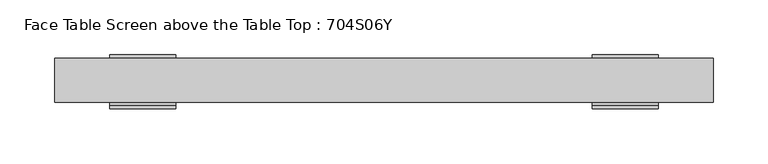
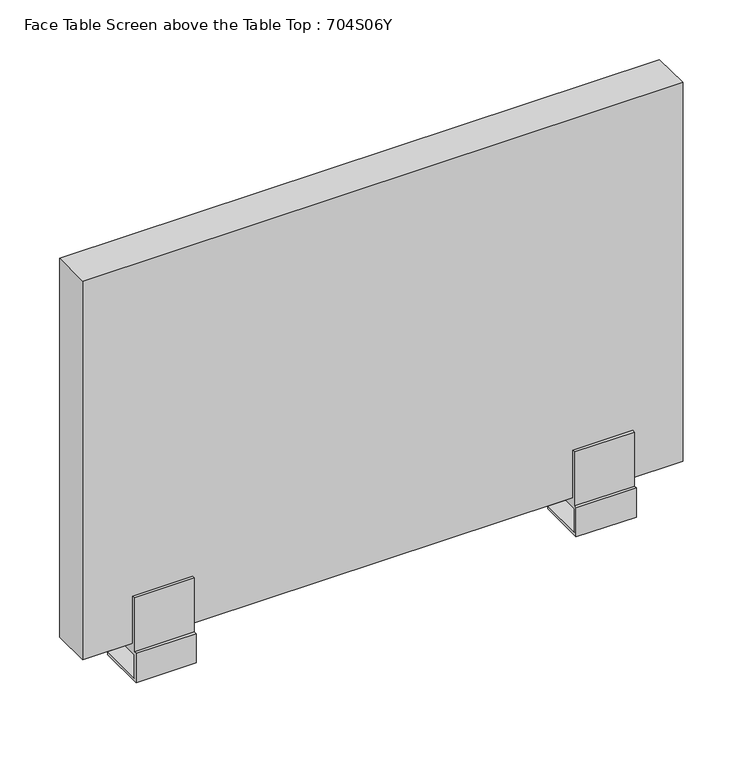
"""IFC4 building model written with IfcOpenShell, lengths in millimetres: furniture geometry, Face Table Screen above the Table Top : 704S06Y."""

from ifc_helpers import new_model, si_unit, frame, origin, place, context, project, spatial, polyline, circle_curve, outline, extrude, source, transform, mapped, element, save
from ifc_brep_helpers import plane_surface, cylinder_surface, advanced_brep


def face_table_screen_above_the_table_top_704s06y_d534fed5(model_context):
    return source(origin(), model_context, "Body", "SolidModel", [
        advanced_brep(
        [(-225.0, 0.0, -39.4406633), (-215.0, 0.0, -39.4406633), (-215.0, 0.0, -28.0), (-225.0, 0.0, -28.0), (-250.0, 23.0, -25.0), (-250.0, -23.0, -25.0), (-190.0, -23.0, -25.0), (-190.0, 23.0, -25.0), (-250.0, -23.0, 0.0), (-250.0, 23.0, -28.0), (-250.0, -26.0, -28.0), (-250.0, -26.0, 3.0), (-250.0, -23.0, 3.0), (-250.0, -23.0, 60.0), (-250.0, -20.0, 60.0), (-250.0, -20.0, 10.0), (-250.0, 20.0, 10.0), (-250.0, 20.0, 60.0), (-250.0, 23.0, 60.0), (-250.0, 23.0, 0.0), (-190.0, -23.0, 0.0), (-190.0, 23.0, 0.0), (-190.0, 23.0, 60.0), (-190.0, 20.0, 60.0), (-190.0, 20.0, 10.0), (-190.0, -20.0, 10.0), (-190.0, -20.0, 60.0), (-190.0, -23.0, 60.0), (-190.0, -23.0, 3.0), (-190.0, -26.0, 3.0), (-190.0, -26.0, -28.0), (-190.0, 23.0, -28.0)],
        [
            (0, 1, circle_curve(frame((-220.0, 0.0, -39.4406633), z_axis=(0.0, 0.0, -1.0), x_axis=(1.0, 0.0, 0.0)), 5.0)),
            (1, 0, circle_curve(frame((-220.0, 0.0, -39.4406633), z_axis=(0.0, 0.0, -1.0), x_axis=(1.0, 0.0, 0.0)), 5.0)),
            (1, 2),
            (2, 3, circle_curve(frame((-220.0, 0.0, -28.0), z_axis=(0.0, 0.0, -1.0), x_axis=(1.0, 0.0, 0.0)), 5.0)),
            (3, 0),
            (3, 2, circle_curve(frame((-220.0, 0.0, -28.0), z_axis=(0.0, 0.0, -1.0), x_axis=(1.0, 0.0, 0.0)), 5.0)),
            (4, 5),
            (5, 6),
            (6, 7),
            (7, 4),
            (8, 5),
            (4, 9),
            (9, 10),
            (10, 11),
            (11, 12),
            (12, 13),
            (13, 14),
            (14, 15),
            (15, 16),
            (16, 17),
            (17, 18),
            (18, 19),
            (19, 8),
            (20, 21),
            (21, 22),
            (22, 23),
            (23, 24),
            (24, 25),
            (25, 26),
            (26, 27),
            (27, 28),
            (28, 29),
            (29, 30),
            (30, 31),
            (31, 7),
            (6, 20),
            (19, 21),
            (20, 8),
            (18, 22),
            (17, 23),
            (16, 24),
            (15, 25),
            (14, 26),
            (13, 27),
            (12, 28),
            (11, 29),
            (10, 30),
            (9, 31),
        ],
        [
            plane_surface(frame((-215.0, 0.0, -39.4406633), z_axis=(0.0, 0.0, -1.0), x_axis=(0.0, -1.0, 0.0))),
            cylinder_surface(frame((-220.0, 0.0, -39.4406633), z_axis=(0.0, 0.0, 1.0), x_axis=(1.0, 0.0, 0.0)), 5.0),
            plane_surface(frame((-215.0, 0.0, -25.0), z_axis=(0.0, 0.0, 1.0), x_axis=(0.0, 1.0, 0.0))),
            plane_surface(frame((-250.0, 23.0, 0.0), z_axis=(-1.0, 0.0, 0.0), x_axis=(0.0, -1.0, 0.0))),
            plane_surface(frame((-190.0, 23.0, 0.0), z_axis=(1.0, 0.0, 0.0), x_axis=(0.0, 1.0, 0.0))),
            plane_surface(frame((-190.0, -23.0, 0.0), z_axis=(0.0, 0.0, -1.0), x_axis=(-1.0, 0.0, 0.0))),
            plane_surface(frame((-190.0, 23.0, 0.0), z_axis=(0.0, 1.0, 0.0), x_axis=(-1.0, 0.0, 0.0))),
            plane_surface(frame((-190.0, 23.0, 60.0), z_axis=(0.0, 0.0, 1.0), x_axis=(-1.0, 0.0, 0.0))),
            plane_surface(frame((-190.0, 20.0, 60.0), z_axis=(0.0, -1.0, 0.0), x_axis=(-1.0, 0.0, 0.0))),
            plane_surface(frame((-190.0, 20.0, 10.0), z_axis=(0.0, 0.0, 1.0), x_axis=(-1.0, 0.0, 0.0))),
            plane_surface(frame((-190.0, -20.0, 10.0), z_axis=(0.0, 1.0, 0.0), x_axis=(-1.0, 0.0, 0.0))),
            plane_surface(frame((-190.0, -20.0, 60.0), z_axis=(0.0, 0.0, 1.0), x_axis=(-1.0, 0.0, 0.0))),
            plane_surface(frame((-190.0, -23.0, 60.0), z_axis=(0.0, -1.0, 0.0), x_axis=(-1.0, 0.0, 0.0))),
            plane_surface(frame((-190.0, -23.0, 3.0), z_axis=(0.0, 0.0, 1.0), x_axis=(-1.0, 0.0, 0.0))),
            plane_surface(frame((-190.0, -26.0, 3.0), z_axis=(0.0, -1.0, 0.0), x_axis=(-1.0, 0.0, 0.0))),
            plane_surface(frame((-190.0, -26.0, -28.0), z_axis=(0.0, 0.0, -1.0), x_axis=(-1.0, 0.0, 0.0))),
            plane_surface(frame((-190.0, 23.0, -28.0), z_axis=(0.0, 1.0, 0.0), x_axis=(-1.0, 0.0, 0.0))),
            plane_surface(frame((-190.0, -23.0, -25.0), z_axis=(0.0, 1.0, 0.0), x_axis=(-1.0, 0.0, 0.0))),
        ],
        [
            (0, [[1, 2]]),
            (1, [[-2, 3, 4, 5]]),
            (1, [[-1, -5, 6, -3]]),
            (2, [[7, 8, 9, 10]]),
            (3, [[11, -7, 12, 13, 14, 15, 16, 17, 18, 19, 20, 21, 22, 23]]),
            (4, [[24, 25, 26, 27, 28, 29, 30, 31, 32, 33, 34, 35, -9, 36]]),
            (5, [[-23, 37, -24, 38]]),
            (6, [[-22, 39, -25, -37]]),
            (7, [[-21, 40, -26, -39]]),
            (8, [[-20, 41, -27, -40]]),
            (9, [[-19, 42, -28, -41]]),
            (10, [[-18, 43, -29, -42]]),
            (11, [[-17, 44, -30, -43]]),
            (12, [[-16, 45, -31, -44]]),
            (13, [[-15, 46, -32, -45]]),
            (14, [[-14, 47, -33, -46]]),
            (15, [[-13, 48, -34, -47], [-4, -6]]),
            (16, [[-12, -10, -35, -48]]),
            (17, [[-11, -38, -36, -8]]),
        ],
    ),
        advanced_brep(
        [(215.0, 0.0, -39.4406633), (225.0, 0.0, -39.4406633), (225.0, 0.0, -28.0), (215.0, 0.0, -28.0), (190.0, 23.0, -25.0), (190.0, -23.0, -25.0), (250.0, -23.0, -25.0), (250.0, 23.0, -25.0), (190.0, -23.0, 0.0), (190.0, 23.0, -28.0), (190.0, -26.0, -28.0), (190.0, -26.0, 3.0), (190.0, -23.0, 3.0), (190.0, -23.0, 60.0), (190.0, -20.0, 60.0), (190.0, -20.0, 10.0), (190.0, 20.0, 10.0), (190.0, 20.0, 60.0), (190.0, 23.0, 60.0), (190.0, 23.0, 0.0), (250.0, -23.0, 0.0), (250.0, 23.0, 0.0), (250.0, 23.0, 60.0), (250.0, 20.0, 60.0), (250.0, 20.0, 10.0), (250.0, -20.0, 10.0), (250.0, -20.0, 60.0), (250.0, -23.0, 60.0), (250.0, -23.0, 3.0), (250.0, -26.0, 3.0), (250.0, -26.0, -28.0), (250.0, 23.0, -28.0)],
        [
            (0, 1, circle_curve(frame((220.0, 0.0, -39.4406633), z_axis=(0.0, 0.0, -1.0), x_axis=(1.0, 0.0, 0.0)), 5.0)),
            (1, 0, circle_curve(frame((220.0, 0.0, -39.4406633), z_axis=(0.0, 0.0, -1.0), x_axis=(1.0, 0.0, 0.0)), 5.0)),
            (1, 2),
            (2, 3, circle_curve(frame((220.0, 0.0, -28.0), z_axis=(0.0, 0.0, -1.0), x_axis=(1.0, 0.0, 0.0)), 5.0)),
            (3, 0),
            (3, 2, circle_curve(frame((220.0, 0.0, -28.0), z_axis=(0.0, 0.0, -1.0), x_axis=(1.0, 0.0, 0.0)), 5.0)),
            (4, 5),
            (5, 6),
            (6, 7),
            (7, 4),
            (8, 5),
            (4, 9),
            (9, 10),
            (10, 11),
            (11, 12),
            (12, 13),
            (13, 14),
            (14, 15),
            (15, 16),
            (16, 17),
            (17, 18),
            (18, 19),
            (19, 8),
            (20, 21),
            (21, 22),
            (22, 23),
            (23, 24),
            (24, 25),
            (25, 26),
            (26, 27),
            (27, 28),
            (28, 29),
            (29, 30),
            (30, 31),
            (31, 7),
            (6, 20),
            (19, 21),
            (20, 8),
            (18, 22),
            (17, 23),
            (16, 24),
            (15, 25),
            (14, 26),
            (13, 27),
            (12, 28),
            (11, 29),
            (10, 30),
            (9, 31),
        ],
        [
            plane_surface(frame((225.0, 0.0, -39.4406633), z_axis=(0.0, 0.0, -1.0), x_axis=(0.0, -1.0, 0.0))),
            cylinder_surface(frame((220.0, 0.0, -39.4406633), z_axis=(0.0, 0.0, 1.0), x_axis=(1.0, 0.0, 0.0)), 5.0),
            plane_surface(frame((225.0, 0.0, -25.0), z_axis=(0.0, 0.0, 1.0), x_axis=(0.0, 1.0, 0.0))),
            plane_surface(frame((190.0, 23.0, 0.0), z_axis=(-1.0, 0.0, 0.0), x_axis=(0.0, -1.0, 0.0))),
            plane_surface(frame((250.0, 23.0, 0.0), z_axis=(1.0, 0.0, 0.0), x_axis=(0.0, 1.0, 0.0))),
            plane_surface(frame((250.0, -23.0, 0.0), z_axis=(0.0, 0.0, -1.0), x_axis=(-1.0, 0.0, 0.0))),
            plane_surface(frame((250.0, 23.0, 0.0), z_axis=(0.0, 1.0, 0.0), x_axis=(-1.0, 0.0, 0.0))),
            plane_surface(frame((250.0, 23.0, 60.0), z_axis=(0.0, 0.0, 1.0), x_axis=(-1.0, 0.0, 0.0))),
            plane_surface(frame((250.0, 20.0, 60.0), z_axis=(0.0, -1.0, 0.0), x_axis=(-1.0, 0.0, 0.0))),
            plane_surface(frame((250.0, 20.0, 10.0), z_axis=(0.0, 0.0, 1.0), x_axis=(-1.0, 0.0, 0.0))),
            plane_surface(frame((250.0, -20.0, 10.0), z_axis=(0.0, 1.0, 0.0), x_axis=(-1.0, 0.0, 0.0))),
            plane_surface(frame((250.0, -20.0, 60.0), z_axis=(0.0, 0.0, 1.0), x_axis=(-1.0, 0.0, 0.0))),
            plane_surface(frame((250.0, -23.0, 60.0), z_axis=(0.0, -1.0, 0.0), x_axis=(-1.0, 0.0, 0.0))),
            plane_surface(frame((250.0, -23.0, 3.0), z_axis=(0.0, 0.0, 1.0), x_axis=(-1.0, 0.0, 0.0))),
            plane_surface(frame((250.0, -26.0, 3.0), z_axis=(0.0, -1.0, 0.0), x_axis=(-1.0, 0.0, 0.0))),
            plane_surface(frame((250.0, -26.0, -28.0), z_axis=(0.0, 0.0, -1.0), x_axis=(-1.0, 0.0, 0.0))),
            plane_surface(frame((250.0, 23.0, -28.0), z_axis=(0.0, 1.0, 0.0), x_axis=(-1.0, 0.0, 0.0))),
            plane_surface(frame((250.0, -23.0, -25.0), z_axis=(0.0, 1.0, 0.0), x_axis=(-1.0, 0.0, 0.0))),
        ],
        [
            (0, [[1, 2]]),
            (1, [[-2, 3, 4, 5]]),
            (1, [[-1, -5, 6, -3]]),
            (2, [[7, 8, 9, 10]]),
            (3, [[11, -7, 12, 13, 14, 15, 16, 17, 18, 19, 20, 21, 22, 23]]),
            (4, [[24, 25, 26, 27, 28, 29, 30, 31, 32, 33, 34, 35, -9, 36]]),
            (5, [[-23, 37, -24, 38]]),
            (6, [[-22, 39, -25, -37]]),
            (7, [[-21, 40, -26, -39]]),
            (8, [[-20, 41, -27, -40]]),
            (9, [[-19, 42, -28, -41]]),
            (10, [[-18, 43, -29, -42]]),
            (11, [[-17, 44, -30, -43]]),
            (12, [[-16, 45, -31, -44]]),
            (13, [[-15, 46, -32, -45]]),
            (14, [[-14, 47, -33, -46]]),
            (15, [[-13, 48, -34, -47], [-4, -6]]),
            (16, [[-12, -10, -35, -48]]),
            (17, [[-11, -38, -36, -8]]),
        ],
    ),
        extrude(outline(polyline([(300.0, -20.0), (-300.0, -20.0), (-300.0, 20.0), (300.0, 20.0), (300.0, -20.0)])), frame((0.0, 0.0, 10.0), z_axis=(0.0, 0.0, 1.0), x_axis=(1.0, 0.0, 0.0)), (0.0, 0.0, 1.0), 400.0),
    ])


if __name__ == "__main__":
    model = new_model("IFC4")
    model_context = context("Model", 3, world=origin())
    ifc_project = project(units=[si_unit("LENGTHUNIT", "METRE", prefix="MILLI")], contexts=[model_context])
    site = spatial("IfcSite", under=ifc_project)
    building = spatial("IfcBuilding", under=site)
    placement = place(None, origin())
    face_table_screen_above_the_table_top_704s06y_shape = face_table_screen_above_the_table_top_704s06y_d534fed5(model_context)
    element("IfcFurniture", 1, ObjectType="Face Table Screen above the Table Top : 704S06Y", at=placement, inside=building, context=model_context, shape_type="MappedRepresentation", body=[
        mapped(face_table_screen_above_the_table_top_704s06y_shape, transform((0.0, 0.0, 0.0), x_axis=(1.0, 0.0, 0.0), y_axis=(0.0, 1.0, 0.0), z_axis=(0.0, 0.0, 1.0))),
    ])
    save(model, "model.ifc")
